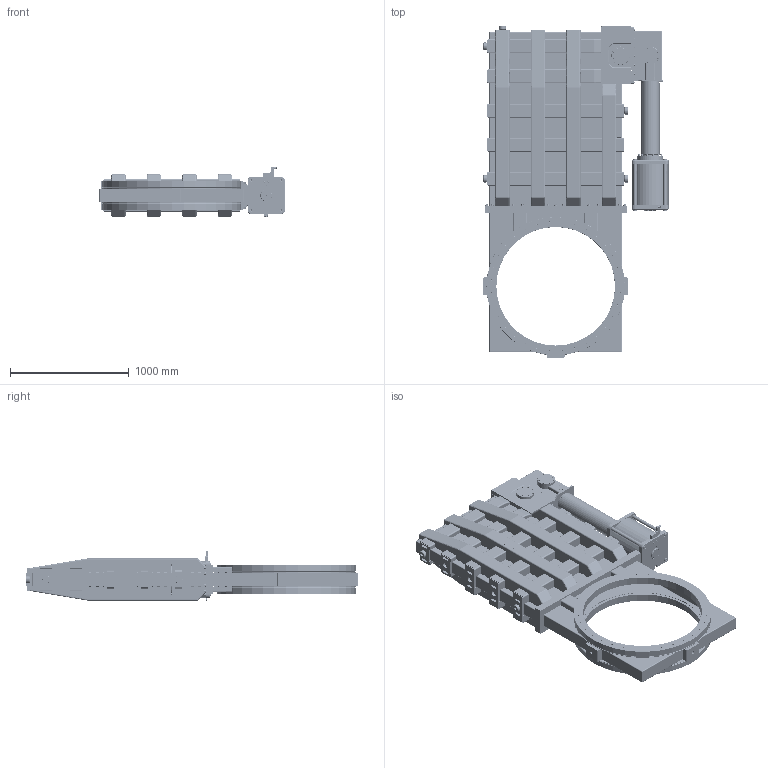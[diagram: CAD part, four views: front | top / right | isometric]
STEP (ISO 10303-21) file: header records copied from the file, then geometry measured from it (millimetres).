
FILE_DESCRIPTION(/* description */ (''),/* implementation_level */ '2;1');
FILE_NAME(/* name */ '1151338030_203.stp',/* time_stamp */ '2019-06-04T14:52:41+02:00',/* author */ (''),/* organization */ (''),/* preprocessor_version */ 'ST-DEVELOPER v16',/* originating_system */ 'SIEMENS PLM Software NX 11.0',/* authorisation */ '');
FILE_SCHEMA (('AP203_CONFIGURATION_CONTROLLED_3D_DESIGN_OF_MECHANICAL_PARTS_AND_ASSEMBLIES_MIM_LF { 1 0 10303 403 2 1 2}'));
Products named in the file (61): 528419; 379707; 379704; 475288; 475280; 475239; 475238; 475237; N-6090-319.1; 475590; 484403; 484402; 415763; 415813; 203063.1; 475648; 475632; 475628; n-6005-500; 224836.1; n-6005-545.1; 372832.5; 379724; 201717.1; 427447; 415617; 73662-01.1; 77379-01.1; N-6121-039.1; N-6016-478.2; 518612; 480332; 484309; 484300; 483956; 543283; 474825; 543266; 474797; 528793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
Assembly tree (222 placements, depth 5):
  518843
    379614
      518609
      474715
      474734
      415807
      528792
      528793
      474797  x6
      543266  x6
      474825  x4
      543283  x2
      483956  x2
      484300  x6
      484309  x5
      480332  x5
      518612
    n-6131-416.2  x22
    224870.2  x22
    78855-r1_1.1  x2
      N-6016-478.2
      N-6121-039.1
      77379-01.1
      73662-01.1
    427442_MODEL
      417656_MODELNX-ARRAGMNTbearbeitet, vse
        415813
        415763  x2
        484402  x2
        484403  x2
      415617  x3
      427447  x2
    385627.1  x2
    467863
    519058
    n-7705-002.2  x2
    518839_NX-ARRAGMNTopen
      201717.1  x8
      379724  x2
      372832.5  x2
      379764
        379696
          475237
          475238
          475239  x2
          475280
          475288
          379704  x2
        528395
          379707
          528419
      n-6005-545.1  x12
      224836.1  x32
      n-6005-500  x16
      475598_MODEL
        475590
        N-6090-319.1  x12
      475628
      475632  x4
      475648
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Bounding box: 1563.9 x 2800.8 x 419 mm (x, y, z)
Volume: 122185148.8 mm3; surface area: 30305946 mm2
Topology: 397 solids, 397 shells, 6684 faces, 16418 edges, 10649 vertices
Faces by surface type: plane 3568, cylinder 1514, extrusion 945, cone 432, bspline 104, torus 83, sphere 36, revolution 2
Full cylindrical faces by diameter (mm): 0.75 x1, 2.115 x8, 2.3 x1, 2.5 x4, 3 x5, 3.2 x1, 3.3 x2, 3.5 x10, 4 x1, 4.5 x1, 5 x6, 5.5 x2, 6 x5, 6.475 x2, 6.66 x48, 6.7 x48, 6.8 x49, 7 x7, 7.008 x1, 8 x96, 8.5 x16, 8.566 x1, 9 x17, 9.5 x16, 10 x4, 10.16 x34, 10.2 x34, 10.3 x86, 10.35 x2, 10.45 x2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
Entity records: 100868 total; most frequent: CARTESIAN_POINT 25998, ORIENTED_EDGE 12234, DIRECTION 11529, EDGE_CURVE 6117, VERTEX_POINT 4392, AXIS2_PLACEMENT_3D 4091, EDGE_LOOP 3713, VECTOR 3346
